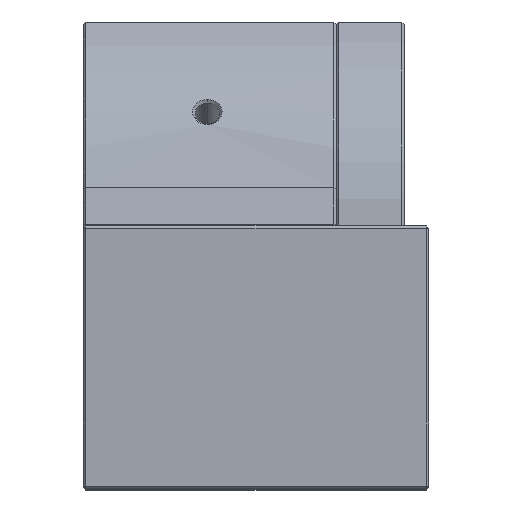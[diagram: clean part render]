
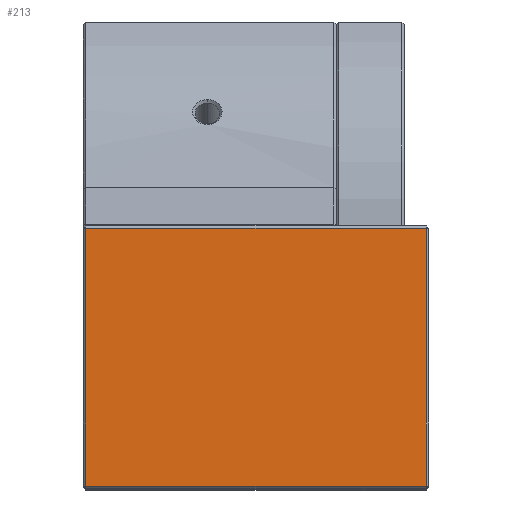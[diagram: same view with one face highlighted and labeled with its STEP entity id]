
A CAD part, top view. The second image highlights one B-rep face of the part: STEP entity #213.
In plain terms, the highlighted planar face has unit normal (0, 0, 1).
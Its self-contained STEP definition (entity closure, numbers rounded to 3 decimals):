
#213 = ADVANCED_FACE ( 'NONE', ( #4017 ), #4016, .T. ) ;
#214 = EDGE_LOOP ( 'NONE', ( #215, #273, #277, #280 ) ) ;
#215 = ORIENTED_EDGE ( 'NONE', *, *, #271, .T. ) ;
#216 = VERTEX_POINT ( 'NONE', #4011 ) ;
#271 = EDGE_CURVE ( 'NONE', #216, #272, #4101, .T. ) ;
#272 = VERTEX_POINT ( 'NONE', #4097 ) ;
#273 = ORIENTED_EDGE ( 'NONE', *, *, #274, .T. ) ;
#274 = EDGE_CURVE ( 'NONE', #272, #276, #4096, .T. ) ;
#276 = VERTEX_POINT ( 'NONE', #4092 ) ;
#277 = ORIENTED_EDGE ( 'NONE', *, *, #278, .T. ) ;
#278 = EDGE_CURVE ( 'NONE', #276, #279, #4155, .T. ) ;
#279 = VERTEX_POINT ( 'NONE', #4151 ) ;
#280 = ORIENTED_EDGE ( 'NONE', *, *, #281, .T. ) ;
#281 = EDGE_CURVE ( 'NONE', #279, #216, #4150, .T. ) ;
#4011 = CARTESIAN_POINT ( 'NONE',  ( -66.5, 1.5, 80. ) ) ;
#4012 = DIRECTION ( 'NONE',  ( 1., 0., 0. ) ) ;
#4013 = DIRECTION ( 'NONE',  ( 0., 0., 1. ) ) ;
#4014 = AXIS2_PLACEMENT_3D ( 'NONE', #4015, #4013, #4012 ) ;
#4015 = CARTESIAN_POINT ( 'NONE',  ( -67., 0., 80. ) ) ;
#4016 = PLANE ( 'NONE',  #4014 ) ;
#4017 = FACE_OUTER_BOUND ( 'NONE', #214, .T. ) ;
#4092 = CARTESIAN_POINT ( 'NONE',  ( 3.5, -51.5, 80. ) ) ;
#4093 = DIRECTION ( 'NONE',  ( 1., 0., 0. ) ) ;
#4094 = VECTOR ( 'NONE', #4093, 1000. ) ;
#4095 = CARTESIAN_POINT ( 'NONE',  ( -67., -51.5, 80. ) ) ;
#4096 = LINE ( 'NONE', #4095, #4094 ) ;
#4097 = CARTESIAN_POINT ( 'NONE',  ( -66.5, -51.5, 80. ) ) ;
#4098 = DIRECTION ( 'NONE',  ( 0., -1., 0. ) ) ;
#4099 = VECTOR ( 'NONE', #4098, 1000. ) ;
#4100 = CARTESIAN_POINT ( 'NONE',  ( -66.5, -52., 80. ) ) ;
#4101 = LINE ( 'NONE', #4100, #4099 ) ;
#4147 = DIRECTION ( 'NONE',  ( -1., 0., 0. ) ) ;
#4148 = VECTOR ( 'NONE', #4147, 1000. ) ;
#4149 = CARTESIAN_POINT ( 'NONE',  ( -67., 1.5, 80. ) ) ;
#4150 = LINE ( 'NONE', #4149, #4148 ) ;
#4151 = CARTESIAN_POINT ( 'NONE',  ( 3.5, 1.5, 80. ) ) ;
#4152 = DIRECTION ( 'NONE',  ( 0., 1., 0. ) ) ;
#4153 = VECTOR ( 'NONE', #4152, 1000. ) ;
#4154 = CARTESIAN_POINT ( 'NONE',  ( 3.5, 0., 80. ) ) ;
#4155 = LINE ( 'NONE', #4154, #4153 ) ;
